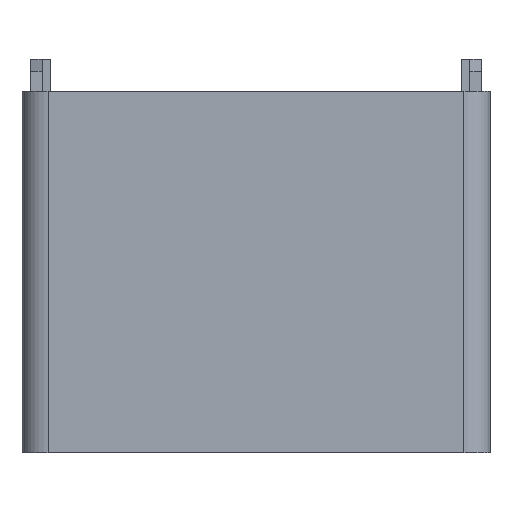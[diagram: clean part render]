
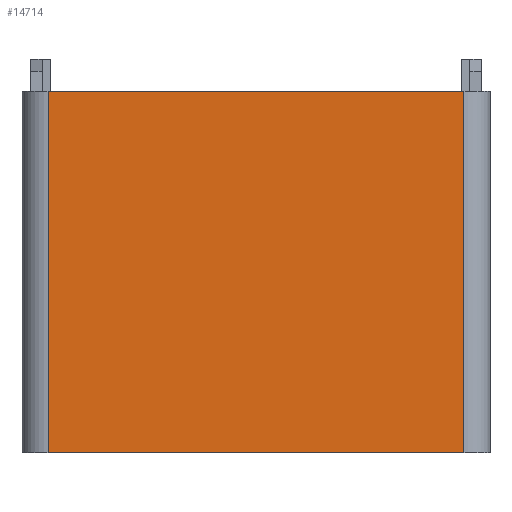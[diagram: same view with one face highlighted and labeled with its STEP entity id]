
A CAD part, front view. The second image highlights one B-rep face of the part: STEP entity #14714.
In plain terms, the highlighted planar face has unit normal (0, -1, 0).
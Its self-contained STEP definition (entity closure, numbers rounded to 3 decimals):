
#50 = PLANE('',#51);
#51 = AXIS2_PLACEMENT_3D('',#52,#53,#54);
#52 = CARTESIAN_POINT('',(-107.5,5.,-6.));
#53 = DIRECTION('',(0.,0.,1.));
#54 = DIRECTION('',(1.,0.,-0.));
#411 = VERTEX_POINT('',#412);
#412 = CARTESIAN_POINT('',(-95.5,5.,-6.));
#427 = CYLINDRICAL_SURFACE('',#428,12.);
#428 = AXIS2_PLACEMENT_3D('',#429,#430,#431);
#429 = CARTESIAN_POINT('',(-95.5,17.,-6.));
#430 = DIRECTION('',(0.,0.,1.));
#431 = DIRECTION('',(-1.,-0.,0.));
#439 = EDGE_CURVE('',#411,#440,#442,.T.);
#440 = VERTEX_POINT('',#441);
#441 = CARTESIAN_POINT('',(95.5,5.,-6.));
#442 = SURFACE_CURVE('',#443,(#447,#454),.PCURVE_S1.);
#443 = LINE('',#444,#445);
#444 = CARTESIAN_POINT('',(-107.5,5.,-6.));
#445 = VECTOR('',#446,1.);
#446 = DIRECTION('',(1.,0.,0.));
#447 = PCURVE('',#50,#448);
#448 = DEFINITIONAL_REPRESENTATION('',(#449),#453);
#449 = LINE('',#450,#451);
#450 = CARTESIAN_POINT('',(0.,0.));
#451 = VECTOR('',#452,1.);
#452 = DIRECTION('',(1.,0.));
#453 = ( GEOMETRIC_REPRESENTATION_CONTEXT(2) 
PARAMETRIC_REPRESENTATION_CONTEXT() REPRESENTATION_CONTEXT('2D SPACE',''
  ) );
#454 = PCURVE('',#455,#460);
#455 = PLANE('',#456);
#456 = AXIS2_PLACEMENT_3D('',#457,#458,#459);
#457 = CARTESIAN_POINT('',(-107.5,5.,-6.));
#458 = DIRECTION('',(0.,-1.,0.));
#459 = DIRECTION('',(0.,0.,1.));
#460 = DEFINITIONAL_REPRESENTATION('',(#461),#465);
#461 = LINE('',#462,#463);
#462 = CARTESIAN_POINT('',(0.,0.));
#463 = VECTOR('',#464,1.);
#464 = DIRECTION('',(0.,-1.));
#465 = ( GEOMETRIC_REPRESENTATION_CONTEXT(2) 
PARAMETRIC_REPRESENTATION_CONTEXT() REPRESENTATION_CONTEXT('2D SPACE',''
  ) );
#486 = CYLINDRICAL_SURFACE('',#487,12.);
#487 = AXIS2_PLACEMENT_3D('',#488,#489,#490);
#488 = CARTESIAN_POINT('',(95.5,17.,-6.));
#489 = DIRECTION('',(0.,0.,1.));
#490 = DIRECTION('',(1.,0.,-0.));
#647 = PLANE('',#648);
#648 = AXIS2_PLACEMENT_3D('',#649,#650,#651);
#649 = CARTESIAN_POINT('',(-108.5,4.,160.));
#650 = DIRECTION('',(0.,0.,1.));
#651 = DIRECTION('',(1.,0.,-0.));
#14616 = EDGE_CURVE('',#440,#14617,#14619,.T.);
#14617 = VERTEX_POINT('',#14618);
#14618 = CARTESIAN_POINT('',(95.5,5.,160.));
#14619 = SURFACE_CURVE('',#14620,(#14624,#14631),.PCURVE_S1.);
#14620 = LINE('',#14621,#14622);
#14621 = CARTESIAN_POINT('',(95.5,5.,-6.));
#14622 = VECTOR('',#14623,1.);
#14623 = DIRECTION('',(0.,0.,1.));
#14624 = PCURVE('',#486,#14625);
#14625 = DEFINITIONAL_REPRESENTATION('',(#14626),#14630);
#14626 = LINE('',#14627,#14628);
#14627 = CARTESIAN_POINT('',(-1.571,0.));
#14628 = VECTOR('',#14629,1.);
#14629 = DIRECTION('',(-0.,1.));
#14630 = ( GEOMETRIC_REPRESENTATION_CONTEXT(2) 
PARAMETRIC_REPRESENTATION_CONTEXT() REPRESENTATION_CONTEXT('2D SPACE',''
  ) );
#14631 = PCURVE('',#455,#14632);
#14632 = DEFINITIONAL_REPRESENTATION('',(#14633),#14637);
#14633 = LINE('',#14634,#14635);
#14634 = CARTESIAN_POINT('',(0.,-203.));
#14635 = VECTOR('',#14636,1.);
#14636 = DIRECTION('',(1.,0.));
#14637 = ( GEOMETRIC_REPRESENTATION_CONTEXT(2) 
PARAMETRIC_REPRESENTATION_CONTEXT() REPRESENTATION_CONTEXT('2D SPACE',''
  ) );
#14714 = ADVANCED_FACE('',(#14715),#455,.T.);
#14715 = FACE_BOUND('',#14716,.T.);
#14716 = EDGE_LOOP('',(#14717,#14740,#14741,#14742));
#14717 = ORIENTED_EDGE('',*,*,#14718,.F.);
#14718 = EDGE_CURVE('',#411,#14719,#14721,.T.);
#14719 = VERTEX_POINT('',#14720);
#14720 = CARTESIAN_POINT('',(-95.5,5.,160.));
#14721 = SURFACE_CURVE('',#14722,(#14726,#14733),.PCURVE_S1.);
#14722 = LINE('',#14723,#14724);
#14723 = CARTESIAN_POINT('',(-95.5,5.,-6.));
#14724 = VECTOR('',#14725,1.);
#14725 = DIRECTION('',(0.,0.,1.));
#14726 = PCURVE('',#455,#14727);
#14727 = DEFINITIONAL_REPRESENTATION('',(#14728),#14732);
#14728 = LINE('',#14729,#14730);
#14729 = CARTESIAN_POINT('',(0.,-12.));
#14730 = VECTOR('',#14731,1.);
#14731 = DIRECTION('',(1.,0.));
#14732 = ( GEOMETRIC_REPRESENTATION_CONTEXT(2) 
PARAMETRIC_REPRESENTATION_CONTEXT() REPRESENTATION_CONTEXT('2D SPACE',''
  ) );
#14733 = PCURVE('',#427,#14734);
#14734 = DEFINITIONAL_REPRESENTATION('',(#14735),#14739);
#14735 = LINE('',#14736,#14737);
#14736 = CARTESIAN_POINT('',(1.571,0.));
#14737 = VECTOR('',#14738,1.);
#14738 = DIRECTION('',(0.,1.));
#14739 = ( GEOMETRIC_REPRESENTATION_CONTEXT(2) 
PARAMETRIC_REPRESENTATION_CONTEXT() REPRESENTATION_CONTEXT('2D SPACE',''
  ) );
#14740 = ORIENTED_EDGE('',*,*,#439,.T.);
#14741 = ORIENTED_EDGE('',*,*,#14616,.T.);
#14742 = ORIENTED_EDGE('',*,*,#14743,.T.);
#14743 = EDGE_CURVE('',#14617,#14719,#14744,.T.);
#14744 = SURFACE_CURVE('',#14745,(#14749,#14755),.PCURVE_S1.);
#14745 = LINE('',#14746,#14747);
#14746 = CARTESIAN_POINT('',(-108.,5.,160.));
#14747 = VECTOR('',#14748,1.);
#14748 = DIRECTION('',(-1.,0.,0.));
#14749 = PCURVE('',#455,#14750);
#14750 = DEFINITIONAL_REPRESENTATION('',(#14751),#14754);
#14751 = B_SPLINE_CURVE_WITH_KNOTS('',1,(#14752,#14753),.UNSPECIFIED.,
  .F.,.F.,(2,2),(-203.5,-12.5),.PIECEWISE_BEZIER_KNOTS.);
#14752 = CARTESIAN_POINT('',(166.,-203.));
#14753 = CARTESIAN_POINT('',(166.,-12.));
#14754 = ( GEOMETRIC_REPRESENTATION_CONTEXT(2) 
PARAMETRIC_REPRESENTATION_CONTEXT() REPRESENTATION_CONTEXT('2D SPACE',''
  ) );
#14755 = PCURVE('',#647,#14756);
#14756 = DEFINITIONAL_REPRESENTATION('',(#14757),#14761);
#14757 = LINE('',#14758,#14759);
#14758 = CARTESIAN_POINT('',(0.5,1.));
#14759 = VECTOR('',#14760,1.);
#14760 = DIRECTION('',(-1.,0.));
#14761 = ( GEOMETRIC_REPRESENTATION_CONTEXT(2) 
PARAMETRIC_REPRESENTATION_CONTEXT() REPRESENTATION_CONTEXT('2D SPACE',''
  ) );
